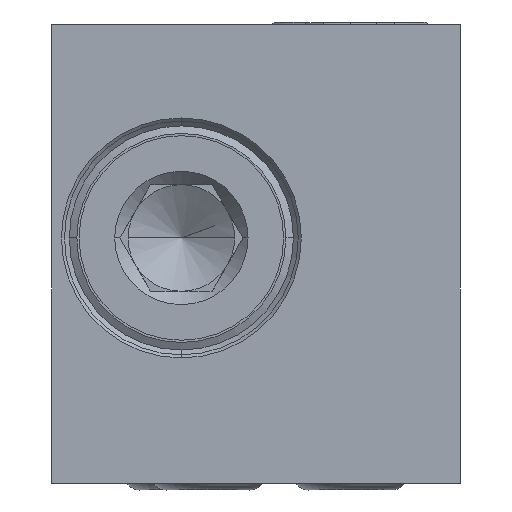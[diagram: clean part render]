
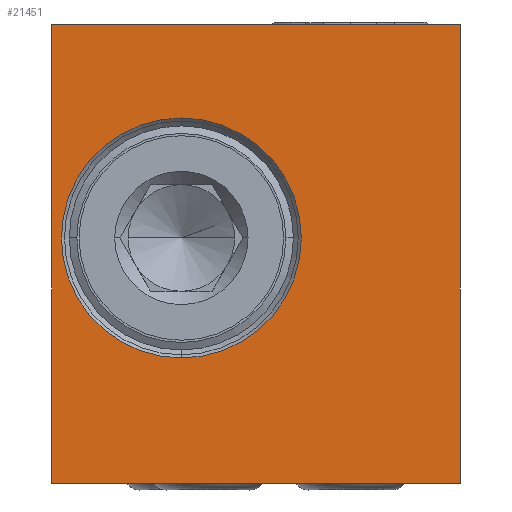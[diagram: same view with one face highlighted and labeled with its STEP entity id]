
A CAD part, left-side view. The second image highlights one B-rep face of the part: STEP entity #21451.
In plain terms, the highlighted planar face has unit normal (-1, 0, 0).
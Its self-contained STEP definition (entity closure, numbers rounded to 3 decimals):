
#3929=DIRECTION('',(0.,0.,1.));
#3930=VECTOR('',#3929,25.8);
#3931=CARTESIAN_POINT('',(-38.,11.5,-12.9));
#3932=LINE('',#3931,#3930);
#3933=DIRECTION('',(0.,-1.,0.));
#3934=VECTOR('',#3933,23.);
#3935=CARTESIAN_POINT('',(-38.,11.5,12.9));
#3936=LINE('',#3935,#3934);
#3937=DIRECTION('',(0.,0.,-1.));
#3938=VECTOR('',#3937,25.8);
#3939=CARTESIAN_POINT('',(-38.,-11.5,12.9));
#3940=LINE('',#3939,#3938);
#3941=DIRECTION('',(0.,1.,0.));
#3942=VECTOR('',#3941,23.);
#3943=CARTESIAN_POINT('',(-38.,-11.5,-12.9));
#3944=LINE('',#3943,#3942);
#3945=CARTESIAN_POINT('',(-38.,4.2,0.9));
#3946=DIRECTION('',(-1.,0.,0.));
#3947=DIRECTION('',(0.,0.,-1.));
#3948=AXIS2_PLACEMENT_3D('',#3945,#3946,#3947);
#3950=CARTESIAN_POINT('',(-38.,4.2,0.9));
#3951=DIRECTION('',(-1.,0.,0.));
#3952=DIRECTION('',(0.,0.,1.));
#3953=AXIS2_PLACEMENT_3D('',#3950,#3951,#3952);
#14695=CARTESIAN_POINT('',(-38.,11.5,12.9));
#14696=VERTEX_POINT('',#14695);
#14697=CARTESIAN_POINT('',(-38.,11.5,-12.9));
#14698=VERTEX_POINT('',#14697);
#14699=CARTESIAN_POINT('',(-38.,-11.5,12.9));
#14700=VERTEX_POINT('',#14699);
#14721=CARTESIAN_POINT('',(-38.,-11.5,-12.9));
#14722=VERTEX_POINT('',#14721);
#14767=CARTESIAN_POINT('',(-38.,4.2,-5.85));
#14768=CARTESIAN_POINT('',(-38.,4.2,7.65));
#14769=VERTEX_POINT('',#14767);
#14770=VERTEX_POINT('',#14768);
#21432=CARTESIAN_POINT('',(-38.,0.,0.));
#21433=DIRECTION('',(-1.,0.,0.));
#21434=DIRECTION('',(0.,-1.,0.));
#21435=AXIS2_PLACEMENT_3D('',#21432,#21433,#21434);
#21436=PLANE('',#21435);
#21437=ORIENTED_EDGE('',*,*,#21425,.T.);
#21438=ORIENTED_EDGE('',*,*,#19249,.T.);
#21440=ORIENTED_EDGE('',*,*,#21439,.T.);
#21442=ORIENTED_EDGE('',*,*,#21441,.T.);
#21443=EDGE_LOOP('',(#21437,#21438,#21440,#21442));
#21444=FACE_OUTER_BOUND('',#21443,.F.);
#21446=ORIENTED_EDGE('',*,*,#21445,.T.);
#21448=ORIENTED_EDGE('',*,*,#21447,.T.);
#21449=EDGE_LOOP('',(#21446,#21448));
#21450=FACE_BOUND('',#21449,.F.);
#21451=ADVANCED_FACE('',(#21444,#21450),#21436,.T.);
#3949=CIRCLE('',#3948,6.75);
#3954=CIRCLE('',#3953,6.75);
#19249=EDGE_CURVE('',#14696,#14700,#3936,.T.);
#21425=EDGE_CURVE('',#14698,#14696,#3932,.T.);
#21439=EDGE_CURVE('',#14700,#14722,#3940,.T.);
#21441=EDGE_CURVE('',#14722,#14698,#3944,.T.);
#21445=EDGE_CURVE('',#14769,#14770,#3949,.T.);
#21447=EDGE_CURVE('',#14770,#14769,#3954,.T.);
